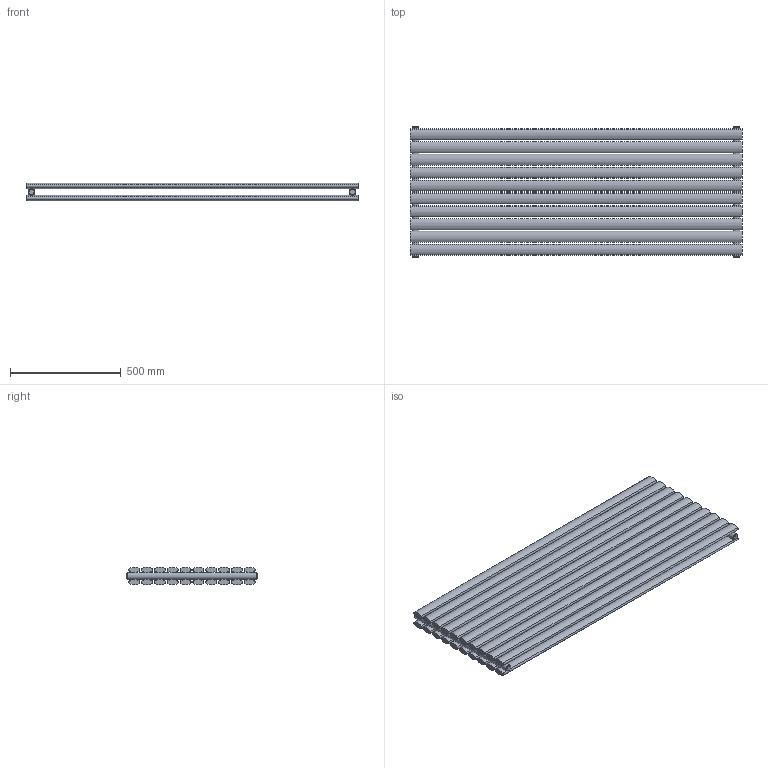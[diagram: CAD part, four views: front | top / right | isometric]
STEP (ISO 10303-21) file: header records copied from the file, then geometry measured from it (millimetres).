
FILE_DESCRIPTION(/* description */ (''),/* implementation_level */ '2;1');
FILE_NAME(/* name */ 'C:\Grzejniki\13DLUXRAD\pokojowe\FORTUNA\FORTUNA PODWÓJNA 1500x584.iam.stp',/* time_stamp */ '2016-06-28T17:31:46+02:00',/* author */ ('m.szydziak'),/* organization */ (''),/* preprocessor_version */ 'ST-DEVELOPER v16.5',/* originating_system */ 'Autodesk Inventor 2017',/* authorisation */ '');
FILE_SCHEMA (('AUTOMOTIVE_DESIGN { 1 0 10303 214 3 1 1 }'));
Length unit declared in the file: millimetre
Products named in the file (5): FORTUNA PODWÓJNA 1500x584; %%c30x1,5x584; 50x25x1,2x1500; zaślepka fi30 G0,5inch; korek
Assembly tree (30 placements, depth 2):
  FORTUNA PODWÓJNA 1500x584
    %%c30x1,5x584  x2
    50x25x1,2x1500  x20
    zaślepka fi30 G0,5inch  x4
    korek  x4
Bounding box: 1500 x 596 x 79.72 mm (x, y, z)
Volume: 28958075.4 mm3; surface area: 3871148.9 mm2
Topology: 30 solids, 30 shells, 224 faces, 536 edges, 372 vertices
Faces by surface type: cylinder 116, plane 108
Full cylindrical faces by diameter (mm): 5 x20, 18.631 x4, 24 x4, 27 x6, 30 x2
Entity records: 2155 total; most frequent: CARTESIAN_POINT 912, DIRECTION 234, ORIENTED_EDGE 174, AXIS2_PLACEMENT_3D 103, EDGE_CURVE 87, EDGE_LOOP 78, VERTEX_POINT 71, FACE_BOUND 39
